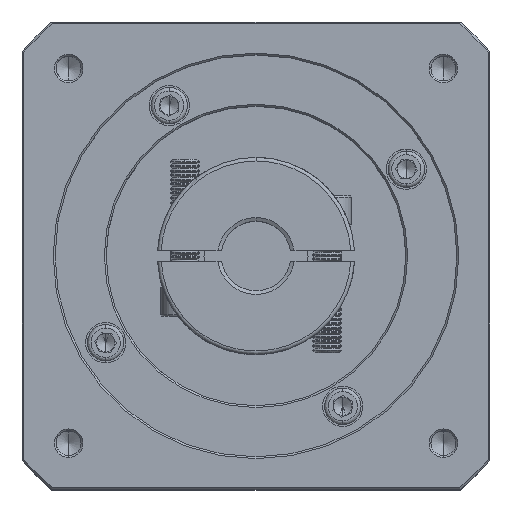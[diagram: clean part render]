
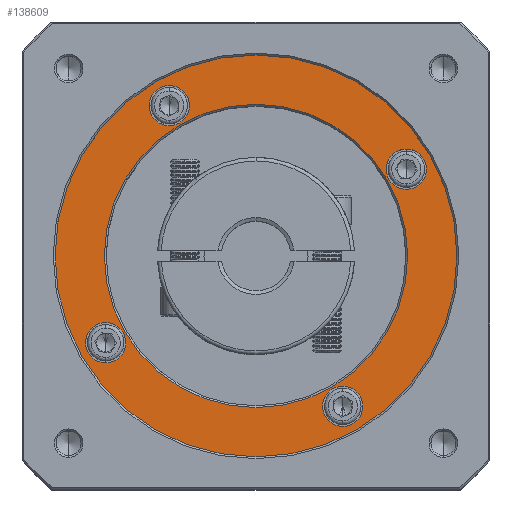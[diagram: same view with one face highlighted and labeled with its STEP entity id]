
A CAD part, top view. The second image highlights one B-rep face of the part: STEP entity #138609.
In plain terms, the highlighted planar face has unit normal (0, 0, 1).
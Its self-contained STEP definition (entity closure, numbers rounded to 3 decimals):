
#747 = DIRECTION ( 'NONE',  ( 0., 1., 0. ) ) ;
#1721 = CIRCLE ( 'NONE', #16789, 5.5 ) ;
#2495 = CIRCLE ( 'NONE', #95656, 5.5 ) ;
#3035 = EDGE_LOOP ( 'NONE', ( #135904, #119829 ) ) ;
#3858 = AXIS2_PLACEMENT_3D ( 'NONE', #29401, #7384, #17184 ) ;
#5452 = CARTESIAN_POINT ( 'NONE',  ( 100.432, 62.961, -8.954 ) ) ;
#6361 = DIRECTION ( 'NONE',  ( 0., 0., -1. ) ) ;
#7384 = DIRECTION ( 'NONE',  ( 0., 0., -1. ) ) ;
#7494 = CARTESIAN_POINT ( 'NONE',  ( 59.296, 94.211, -8.954 ) ) ;
#8604 = CIRCLE ( 'NONE', #90536, 55. ) ;
#8994 = CIRCLE ( 'NONE', #44504, 41.5 ) ;
#9733 = EDGE_LOOP ( 'NONE', ( #128459, #12154 ) ) ;
#9966 = ORIENTED_EDGE ( 'NONE', *, *, #136834, .T. ) ;
#12154 = ORIENTED_EDGE ( 'NONE', *, *, #16273, .T. ) ;
#13633 = CARTESIAN_POINT ( 'NONE',  ( 59.296, 39.211, -8.954 ) ) ;
#13682 = VERTEX_POINT ( 'NONE', #55870 ) ;
#13964 = EDGE_LOOP ( 'NONE', ( #46456, #96508 ) ) ;
#14321 = CARTESIAN_POINT ( 'NONE',  ( 35.546, 74.848, -8.954 ) ) ;
#16273 = EDGE_CURVE ( 'NONE', #135498, #118547, #80975, .T. ) ;
#16789 = AXIS2_PLACEMENT_3D ( 'NONE', #94199, #51121, #62390 ) ;
#17184 = DIRECTION ( 'NONE',  ( 0., 1., 0. ) ) ;
#17234 = VERTEX_POINT ( 'NONE', #50118 ) ;
#17347 = DIRECTION ( 'NONE',  ( 0., 0., -1. ) ) ;
#22910 = CARTESIAN_POINT ( 'NONE',  ( 17.796, 39.211, -8.954 ) ) ;
#23753 = EDGE_LOOP ( 'NONE', ( #27470, #9966 ) ) ;
#25023 = CARTESIAN_POINT ( 'NONE',  ( 100.432, 68.461, -8.954 ) ) ;
#26867 = CARTESIAN_POINT ( 'NONE',  ( 100.432, 62.961, -8.954 ) ) ;
#27126 = EDGE_CURVE ( 'NONE', #118547, #135498, #90701, .T. ) ;
#27319 = DIRECTION ( 'NONE',  ( 0., 1., 0. ) ) ;
#27470 = ORIENTED_EDGE ( 'NONE', *, *, #98136, .T. ) ;
#27979 = DIRECTION ( 'NONE',  ( 0., 0., -1. ) ) ;
#28407 = AXIS2_PLACEMENT_3D ( 'NONE', #102334, #27979, #124800 ) ;
#29401 = CARTESIAN_POINT ( 'NONE',  ( 35.546, 80.348, -8.954 ) ) ;
#30212 = CARTESIAN_POINT ( 'NONE',  ( 18.16, 9.961, -8.954 ) ) ;
#31095 = DIRECTION ( 'NONE',  ( 0., 1., 0. ) ) ;
#32495 = AXIS2_PLACEMENT_3D ( 'NONE', #67613, #57306, #78424 ) ;
#33575 = FACE_OUTER_BOUND ( 'NONE', #63375, .T. ) ;
#35078 = CARTESIAN_POINT ( 'NONE',  ( 35.546, 85.848, -8.954 ) ) ;
#36398 = ORIENTED_EDGE ( 'NONE', *, *, #52767, .T. ) ;
#36749 = VERTEX_POINT ( 'NONE', #110870 ) ;
#40299 = FACE_BOUND ( 'NONE', #3035, .T. ) ;
#40495 = CIRCLE ( 'NONE', #131371, 5.5 ) ;
#42242 = DIRECTION ( 'NONE',  ( 0., 1., 0. ) ) ;
#42972 = DIRECTION ( 'NONE',  ( 0., 0., -1. ) ) ;
#43274 = AXIS2_PLACEMENT_3D ( 'NONE', #106542, #64444, #747 ) ;
#43897 = CARTESIAN_POINT ( 'NONE',  ( 83.046, -1.925, -8.954 ) ) ;
#44504 = AXIS2_PLACEMENT_3D ( 'NONE', #52232, #95743, #137384 ) ;
#44791 = ORIENTED_EDGE ( 'NONE', *, *, #138359, .T. ) ;
#45474 = DIRECTION ( 'NONE',  ( 0., 0., 1. ) ) ;
#46456 = ORIENTED_EDGE ( 'NONE', *, *, #111739, .T. ) ;
#48733 = CIRCLE ( 'NONE', #28407, 41.5 ) ;
#50118 = CARTESIAN_POINT ( 'NONE',  ( 83.046, 3.575, -8.954 ) ) ;
#51121 = DIRECTION ( 'NONE',  ( 0., 0., -1. ) ) ;
#52232 = CARTESIAN_POINT ( 'NONE',  ( 59.296, 39.211, -8.954 ) ) ;
#52767 = EDGE_CURVE ( 'NONE', #104390, #36749, #8994, .T. ) ;
#53511 = CARTESIAN_POINT ( 'NONE',  ( 59.296, 39.211, -8.954 ) ) ;
#53818 = AXIS2_PLACEMENT_3D ( 'NONE', #137232, #95588, #42242 ) ;
#54014 = EDGE_CURVE ( 'NONE', #95637, #104333, #1721, .T. ) ;
#55870 = CARTESIAN_POINT ( 'NONE',  ( 83.046, -7.425, -8.954 ) ) ;
#57306 = DIRECTION ( 'NONE',  ( 0., 0., -1. ) ) ;
#62390 = DIRECTION ( 'NONE',  ( 0., 1., 0. ) ) ;
#63375 = EDGE_LOOP ( 'NONE', ( #84590, #44791 ) ) ;
#63783 = FACE_BOUND ( 'NONE', #23753, .T. ) ;
#64444 = DIRECTION ( 'NONE',  ( 0., 0., -1. ) ) ;
#66018 = AXIS2_PLACEMENT_3D ( 'NONE', #43897, #42972, #129482 ) ;
#67613 = CARTESIAN_POINT ( 'NONE',  ( 18.16, 15.461, -8.954 ) ) ;
#69441 = AXIS2_PLACEMENT_3D ( 'NONE', #26867, #91415, #27319 ) ;
#69525 = CIRCLE ( 'NONE', #69441, 5.5 ) ;
#70835 = EDGE_LOOP ( 'NONE', ( #84643, #36398 ) ) ;
#72923 = EDGE_CURVE ( 'NONE', #105885, #111795, #40495, .T. ) ;
#78424 = DIRECTION ( 'NONE',  ( 0., 1., 0. ) ) ;
#80650 = DIRECTION ( 'NONE',  ( 0., 1., 0. ) ) ;
#80975 = CIRCLE ( 'NONE', #43274, 5.5 ) ;
#84590 = ORIENTED_EDGE ( 'NONE', *, *, #105255, .T. ) ;
#84643 = ORIENTED_EDGE ( 'NONE', *, *, #115409, .T. ) ;
#85929 = CIRCLE ( 'NONE', #32495, 5.5 ) ;
#88544 = DIRECTION ( 'NONE',  ( 0., 1., 0. ) ) ;
#88924 = FACE_BOUND ( 'NONE', #9733, .T. ) ;
#90536 = AXIS2_PLACEMENT_3D ( 'NONE', #53511, #117159, #31095 ) ;
#90701 = CIRCLE ( 'NONE', #3858, 5.5 ) ;
#91323 = CARTESIAN_POINT ( 'NONE',  ( 83.046, -1.925, -8.954 ) ) ;
#91415 = DIRECTION ( 'NONE',  ( 0., 0., -1. ) ) ;
#94199 = CARTESIAN_POINT ( 'NONE',  ( 18.16, 15.461, -8.954 ) ) ;
#94523 = CARTESIAN_POINT ( 'NONE',  ( 100.432, 57.461, -8.954 ) ) ;
#95588 = DIRECTION ( 'NONE',  ( 0., 0., 1. ) ) ;
#95637 = VERTEX_POINT ( 'NONE', #30212 ) ;
#95656 = AXIS2_PLACEMENT_3D ( 'NONE', #91323, #17347, #80650 ) ;
#95695 = CIRCLE ( 'NONE', #53818, 55. ) ;
#95743 = DIRECTION ( 'NONE',  ( 0., 0., -1. ) ) ;
#96508 = ORIENTED_EDGE ( 'NONE', *, *, #54014, .T. ) ;
#98136 = EDGE_CURVE ( 'NONE', #17234, #13682, #101808, .T. ) ;
#98964 = FACE_BOUND ( 'NONE', #13964, .T. ) ;
#101808 = CIRCLE ( 'NONE', #66018, 5.5 ) ;
#102334 = CARTESIAN_POINT ( 'NONE',  ( 59.296, 39.211, -8.954 ) ) ;
#104333 = VERTEX_POINT ( 'NONE', #130016 ) ;
#104390 = VERTEX_POINT ( 'NONE', #22910 ) ;
#105255 = EDGE_CURVE ( 'NONE', #138846, #109923, #95695, .T. ) ;
#105885 = VERTEX_POINT ( 'NONE', #94523 ) ;
#106542 = CARTESIAN_POINT ( 'NONE',  ( 35.546, 80.348, -8.954 ) ) ;
#107696 = PLANE ( 'NONE',  #133544 ) ;
#109923 = VERTEX_POINT ( 'NONE', #133003 ) ;
#110870 = CARTESIAN_POINT ( 'NONE',  ( 100.796, 39.211, -8.954 ) ) ;
#111739 = EDGE_CURVE ( 'NONE', #104333, #95637, #85929, .T. ) ;
#111795 = VERTEX_POINT ( 'NONE', #25023 ) ;
#115409 = EDGE_CURVE ( 'NONE', #36749, #104390, #48733, .T. ) ;
#117159 = DIRECTION ( 'NONE',  ( 0., 0., 1. ) ) ;
#118547 = VERTEX_POINT ( 'NONE', #35078 ) ;
#119829 = ORIENTED_EDGE ( 'NONE', *, *, #72923, .T. ) ;
#120716 = FACE_BOUND ( 'NONE', #70835, .T. ) ;
#124283 = DIRECTION ( 'NONE',  ( 0., 1., 0. ) ) ;
#124800 = DIRECTION ( 'NONE',  ( 1., 0., 0. ) ) ;
#128459 = ORIENTED_EDGE ( 'NONE', *, *, #27126, .T. ) ;
#128998 = EDGE_CURVE ( 'NONE', #111795, #105885, #69525, .T. ) ;
#129482 = DIRECTION ( 'NONE',  ( 0., 1., 0. ) ) ;
#130016 = CARTESIAN_POINT ( 'NONE',  ( 18.16, 20.961, -8.954 ) ) ;
#131371 = AXIS2_PLACEMENT_3D ( 'NONE', #5452, #6361, #124283 ) ;
#133003 = CARTESIAN_POINT ( 'NONE',  ( 59.296, -15.789, -8.954 ) ) ;
#133544 = AXIS2_PLACEMENT_3D ( 'NONE', #13633, #45474, #88544 ) ;
#135498 = VERTEX_POINT ( 'NONE', #14321 ) ;
#135904 = ORIENTED_EDGE ( 'NONE', *, *, #128998, .T. ) ;
#136834 = EDGE_CURVE ( 'NONE', #13682, #17234, #2495, .T. ) ;
#137232 = CARTESIAN_POINT ( 'NONE',  ( 59.296, 39.211, -8.954 ) ) ;
#137384 = DIRECTION ( 'NONE',  ( 1., 0., 0. ) ) ;
#138359 = EDGE_CURVE ( 'NONE', #109923, #138846, #8604, .T. ) ;
#138609 = ADVANCED_FACE ( 'NONE', ( #33575, #120716, #88924, #40299, #98964, #63783 ), #107696, .T. ) ;
#138846 = VERTEX_POINT ( 'NONE', #7494 ) ;
